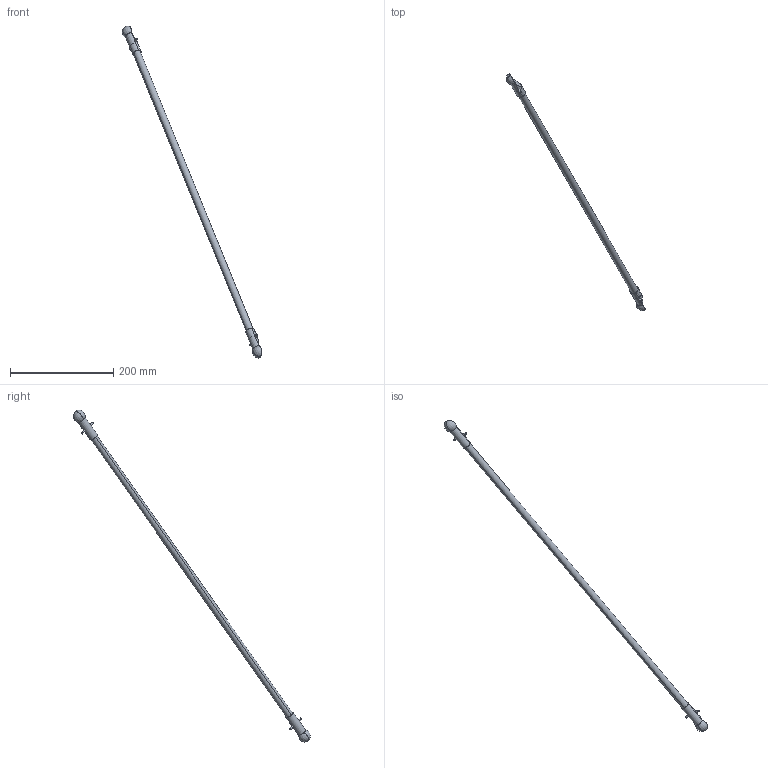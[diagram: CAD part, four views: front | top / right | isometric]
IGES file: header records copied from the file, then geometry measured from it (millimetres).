
Start section: SolidWorks IGES file using analytic representation for surfaces
Global section: file name: C:\Users\SELUHAA\Desktop\Work items\545792\IGES\IRB360_X-1130-WDS-4D_rev03_IGES_J\IRB360_X-1130-WDS-4D_rev03_LA3_2_CAD.IGS; native system: SolidWorks 2022; preprocessor: SolidWorks 2022; author: SELUHAA; date: 231204.110924; units: millimetre
Bounding box: 270.4 x 459.68 x 644.4 mm (x, y, z)
Surface area: 41260.7 mm2 (no closed solid volume)
Topology: 0 solids, 0 shells, 40 faces, 604 edges, 602 vertices
Faces by surface type: revolution 28, bspline 12
